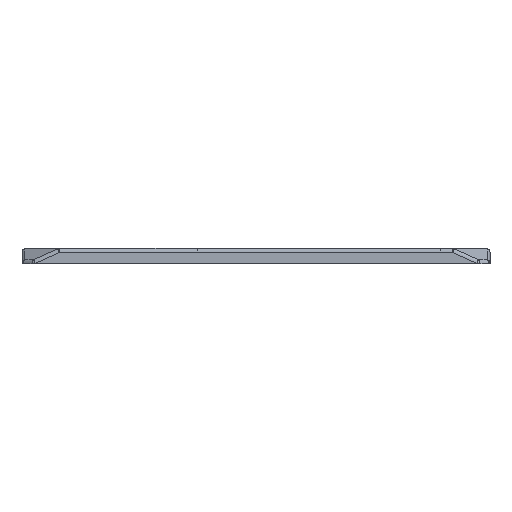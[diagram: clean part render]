
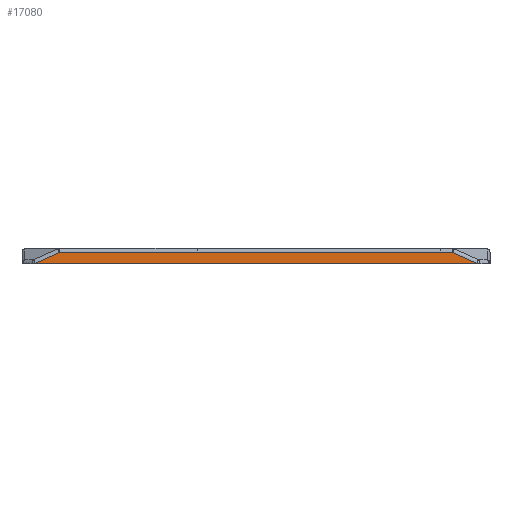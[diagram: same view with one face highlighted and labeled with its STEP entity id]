
A CAD part, left-side view. The second image highlights one B-rep face of the part: STEP entity #17080.
In plain terms, the highlighted planar face has unit normal (-1, 0, 0).
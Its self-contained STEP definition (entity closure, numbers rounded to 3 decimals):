
#155 = EDGE_CURVE ( 'NONE', #4811, #1552, #10078, .T. ) ;
#333 = CARTESIAN_POINT ( 'NONE',  ( -225.514, 148.882, 0.5 ) ) ;
#604 = LINE ( 'NONE', #13984, #13808 ) ;
#841 = CARTESIAN_POINT ( 'NONE',  ( -225.514, -2., 2. ) ) ;
#848 = CARTESIAN_POINT ( 'NONE',  ( -225.514, 157.379, -3.5 ) ) ;
#1067 = ORIENTED_EDGE ( 'NONE', *, *, #6405, .T. ) ;
#1552 = VERTEX_POINT ( 'NONE', #9466 ) ;
#2662 = CARTESIAN_POINT ( 'NONE',  ( -225.514, 157.379, -3.323 ) ) ;
#2843 = EDGE_LOOP ( 'NONE', ( #13794, #1067, #15248, #11597, #3026, #16537 ) ) ;
#3026 = ORIENTED_EDGE ( 'NONE', *, *, #14775, .T. ) ;
#3929 = VERTEX_POINT ( 'NONE', #15267 ) ;
#3938 = LINE ( 'NONE', #4610, #5846 ) ;
#4610 = CARTESIAN_POINT ( 'NONE',  ( -225.514, 157.587, -3.417 ) ) ;
#4787 = EDGE_CURVE ( 'NONE', #3929, #7287, #604, .T. ) ;
#4811 = VERTEX_POINT ( 'NONE', #12805 ) ;
#5835 = DIRECTION ( 'NONE',  ( 0., 1., 0. ) ) ;
#5846 = VECTOR ( 'NONE', #15505, 1000. ) ;
#5899 = DIRECTION ( 'NONE',  ( 0., 1., 0. ) ) ;
#6405 = EDGE_CURVE ( 'NONE', #4811, #10127, #7104, .T. ) ;
#6678 = VECTOR ( 'NONE', #8570, 1000. ) ;
#7104 = LINE ( 'NONE', #11317, #6678 ) ;
#7121 = EDGE_CURVE ( 'NONE', #16561, #1552, #11183, .T. ) ;
#7287 = VERTEX_POINT ( 'NONE', #333 ) ;
#8570 = DIRECTION ( 'NONE',  ( 0., 0., 1. ) ) ;
#8896 = DIRECTION ( 'NONE',  ( 0., 0., -1. ) ) ;
#9466 = CARTESIAN_POINT ( 'NONE',  ( -225.514, 157.379, -3.5 ) ) ;
#10078 = LINE ( 'NONE', #16720, #13740 ) ;
#10127 = VERTEX_POINT ( 'NONE', #16414 ) ;
#11183 = LINE ( 'NONE', #848, #17396 ) ;
#11317 = CARTESIAN_POINT ( 'NONE',  ( -225.514, 2.621, -2.5 ) ) ;
#11462 = VECTOR ( 'NONE', #17338, 1000. ) ;
#11597 = ORIENTED_EDGE ( 'NONE', *, *, #4787, .T. ) ;
#11667 = CARTESIAN_POINT ( 'NONE',  ( -225.514, 0.77, -4.156 ) ) ;
#11759 = EDGE_CURVE ( 'NONE', #10127, #3929, #14465, .T. ) ;
#12013 = FACE_OUTER_BOUND ( 'NONE', #2843, .T. ) ;
#12805 = CARTESIAN_POINT ( 'NONE',  ( -225.514, 2.621, -3.5 ) ) ;
#12949 = PLANE ( 'NONE',  #15516 ) ;
#13740 = VECTOR ( 'NONE', #5835, 1000. ) ;
#13794 = ORIENTED_EDGE ( 'NONE', *, *, #155, .F. ) ;
#13808 = VECTOR ( 'NONE', #5899, 1000. ) ;
#13984 = CARTESIAN_POINT ( 'NONE',  ( -225.514, 148., 0.5 ) ) ;
#14414 = DIRECTION ( 'NONE',  ( 0., 0., -1. ) ) ;
#14465 = LINE ( 'NONE', #11667, #11462 ) ;
#14775 = EDGE_CURVE ( 'NONE', #7287, #16561, #3938, .T. ) ;
#15248 = ORIENTED_EDGE ( 'NONE', *, *, #11759, .T. ) ;
#15267 = CARTESIAN_POINT ( 'NONE',  ( -225.514, 11.118, 0.5 ) ) ;
#15505 = DIRECTION ( 'NONE',  ( 0., 0.912, -0.41 ) ) ;
#15516 = AXIS2_PLACEMENT_3D ( 'NONE', #841, #15749, #14414 ) ;
#15749 = DIRECTION ( 'NONE',  ( 1., 0., 0. ) ) ;
#16414 = CARTESIAN_POINT ( 'NONE',  ( -225.514, 2.621, -3.323 ) ) ;
#16537 = ORIENTED_EDGE ( 'NONE', *, *, #7121, .T. ) ;
#16561 = VERTEX_POINT ( 'NONE', #2662 ) ;
#16720 = CARTESIAN_POINT ( 'NONE',  ( -225.514, -2., -3.5 ) ) ;
#17080 = ADVANCED_FACE ( 'NONE', ( #12013 ), #12949, .F. ) ;
#17338 = DIRECTION ( 'NONE',  ( 0., 0.912, 0.41 ) ) ;
#17396 = VECTOR ( 'NONE', #8896, 1000. ) ;
